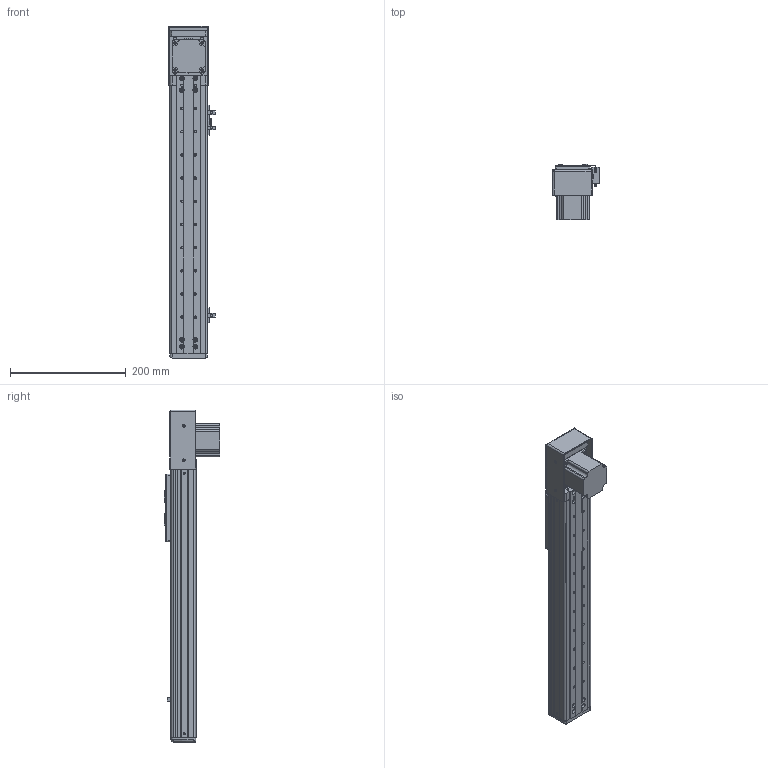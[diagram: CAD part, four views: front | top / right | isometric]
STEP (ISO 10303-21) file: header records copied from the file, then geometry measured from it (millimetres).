
FILE_DESCRIPTION (( 'STEP AP203' ), '1' );
FILE_NAME ('RY60F-T-350-DK.SLDASM_300.step', '2021-03-02T00:56:14', ( '盈信电脑' ), ( '东莞市道滘镇水果街19号' ), 'SwSTEP 2.0', 'SolidWorks 2012', '' );
FILE_SCHEMA (( 'CONFIG_CONTROL_DESIGN' ));
Length unit declared in the file: millimetre
Products named in the file (19): RY60F-肮祭湍揤輸; RY60F-T-57萇儂奻殏假蚾啣; RY60F-肮祭湍揤輸2; RY60F-T-下折同步带拉紧板; RY60F-T-350-DK.SLDASM_300; RY60F-T-狟殏欶; 57祭輛萇儂; RY60F-350-肮祭湍滅鳥詩え-DK_300; 滅袉蝶18-24; RY50F-350-MR15W絳寢-DK_300; RY60F-祥凄詩滅鳥裔; RY60F-350肮祭湍俋褲-DK_300; 覜茼ん672; RY60F-T-下折57电机端同步轮座; RY50-60詩湍揤啣; RY60F-嫖萇羲壽結え; RY60F-滅鳥詩え盓殤; RY60F-肮祭湍臏賑輸; RY60F-浮动端同步轮支撑座
Assembly tree (23 placements, depth 2):
  RY60F-T-350-DK.SLDASM_300
    RY60F-肮祭湍臏賑輸
    RY60F-浮动端同步轮支撑座
    RY60F-滅鳥詩え盓殤
    RY60F-嫖萇羲壽結え
    RY50-60詩湍揤啣  x2
    RY60F-祥凄詩滅鳥裔
    RY60F-T-下折57电机端同步轮座
    RY60F-350肮祭湍俋褲-DK_300  x2
    覜茼ん672  x3
    RY60F-350-肮祭湍滅鳥詩え-DK_300
    RY50F-350-MR15W絳寢-DK_300
    滅袉蝶18-24  x2
    RY60F-T-57萇儂奻殏假蚾啣
    RY60F-T-下折同步带拉紧板
    RY60F-肮祭湍揤輸
    RY60F-肮祭湍揤輸2
    57祭輛萇儂
    RY60F-T-狟殏欶
Bounding box: 80.76 x 96.5 x 573 mm (x, y, z)
Volume: 729038.9 mm3; surface area: 418933.6 mm2
Topology: 23 solids, 23 shells, 1142 faces, 3122 edges, 2004 vertices
Faces by surface type: plane 546, cylinder 515, cone 71, bspline 10
Entity records: 34945 total; most frequent: CARTESIAN_POINT 6361, DIRECTION 5608, ORIENTED_EDGE 5420, EDGE_CURVE 2710, AXIS2_PLACEMENT_3D 1959, VERTEX_POINT 1772, LINE 1690, VECTOR 1690
